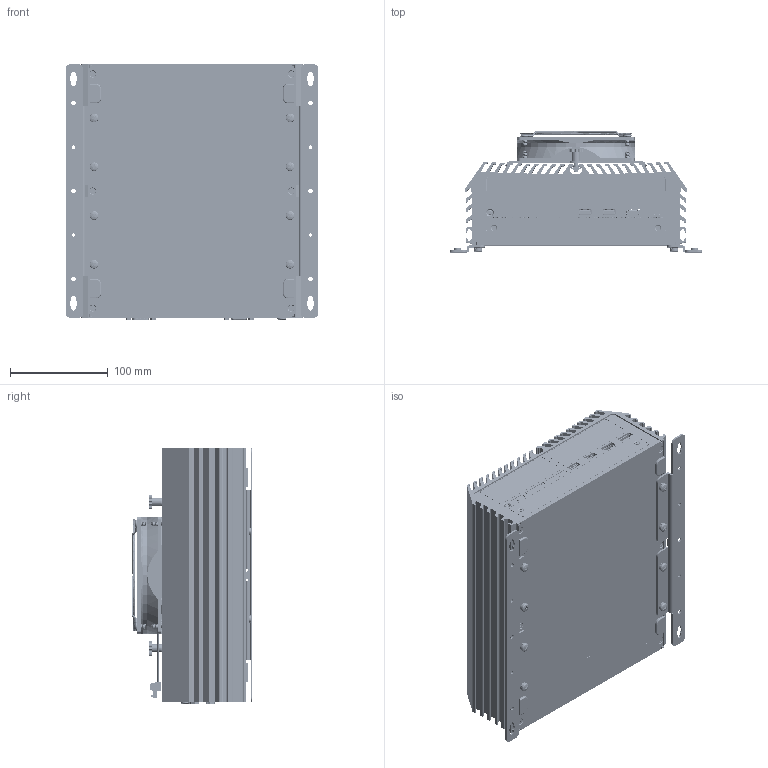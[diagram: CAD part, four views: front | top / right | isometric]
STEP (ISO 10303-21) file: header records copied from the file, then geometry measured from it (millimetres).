
FILE_DESCRIPTION (( 'STEP AP214' ), '1' );
FILE_NAME ('1-DS-1500+Wall Mount+12” 風扇-外觀-20250807.STEP', '2026-07-27T05:17:46', ( '' ), ( '' ), 'SwSTEP 2.0', 'SolidWorks 2014', '' );
FILE_SCHEMA (( 'AUTOMOTIVE_DESIGN' ));
Length unit declared in the file: millimetre
Products named in the file (55): D330H1SL72211DD0; 23-D0351500040_CN1_ECHB350R-04P; 12_ASM_23_ASM; Top Cover(M1-407120006300)-DS-1200-金金-20181015; NUT-M5; USB3.0-2L+RJ45-JFM38U1B-B313-4F(23-D0202300320); 120_X_120_X_25_DC_FAN_ASM_3_ASM_ASM; 1-DS-1500+Wall Mount+12” 風扇-外觀-20250807; MANIFOLD_SOLID_BREP_902_1_1; VOLUMENK_S_VRPER1-4576_2_2; DS-MEC KIT-Universal Bracket(M1-ZZZZ3613001); MANIFOLD_SOLID_BREP_904_1_1; ROTOR_120MM_FAN_2_2; 23-D0242300200_DP1_DISPLAYPORT; M5-SP_3; DS-1300-Front Bezel(M1-407130024100)-20200311; MANIFOLD_SOLID_BREP_906_1_1; 23-D0341500030_DC_IN1_5EHDRM-03P_8; DS-1200-Top Cover asm-金金-20180402; 12-PLATE_9; MANIFOLD_SOLID_BREP_905_1_1; DS-1300-Rear Bezel(M1-407130034100)-20200311; 外接電源B-4腳; DS-1200-Front Bezel Matching Bezel(M1-407120084100); 銅柱-4-4OUNC-4.8_11.8H(M3-COSD6L00000)東莞?輝; DS-1200-Bottom Cover(M1-407120011200)-20180821; MANIFOLD_SOLID_BREP_903_1_1; RITILA_ASM_1_ASM_4_ASM; USB-3.0-SMT-T.H(122-0921NX0504); Screw-丸頭-十字-外齒-M5x8(M3-SCREAB00002); D20H1P1PA1X2A111N2 (3D); Hole Plugs(M4-RUBR0100004)-M06V0; DS-Wall Mount Bracket(M1-ZZZZ3611004); DS-1500-Front Open Bezel(M1-407150084100); Screw-沙拉-120-星型-T10+E型扣-黑-M3x13(M3-1103132270+M3-402004050415); MANIFOLD_SOLID_BREP_899_1_1; Rubber Foot Shore(M4-RUFT0100001); MANIFOLD_SOLID_BREP_900_1_1; DS-1300-Front Bezel-symbol_panel(M0-ZZZZ5C30009)-20200923; USB3.1-2+RJ45-JFM48U1B-BA04(2.5G)(23-D0572300320)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
Assembly tree (94 placements, depth 4):
  1-DS-1500+Wall Mount+12” 風扇-外觀-20250807
    DS-1500-PCBA-ASM-20250203
      DS-1500-Main Board asm-20250203
        23-D0351500040_CN1_ECHB350R-04P
        AUTIO_2IN1
        D20H1P1PA1X2A111N2 (3D)
        23-D0351500040_CN2_MINIDIN_USBX2
        D330H1SL72211DD0
        23-D0242300200_DP1_DISPLAYPORT  x2
        23-D0341500040_FAN2_ECH350R_3P_1LAYER
        23-D0341500030_DC_IN1_5EHDRM-03P_8
        PWR_BTN_TC003
        USB-3.0-SMT-T.H(122-0921NX0504)  x2
        WHDM-19FLBSDR
        USB3.0-2L+RJ45-JFM38U1B-B313-4F(23-D0202300320)
        USB3.1-2+RJ45-JFM48U1B-BA04(2.5G)(23-D0572300320)
    DS-1300-Front Bezel(M1-407130024100)-20200311
    DS-1300-Front Bezel-symbol_panel(M0-ZZZZ5C30009)-20200923
    DS-1500-Front Open Bezel(M1-407150084100)
    DS-1200-Front Bezel Matching Bezel(M1-407120084100)  x2
    DS-1300-Rear Bezel(M1-407130034100)-20200311
    DS-MEC KIT-Universal Bracket(M1-ZZZZ3613001)  x2
    DS-1200-Top Cover asm-金金-20180402
      Top Cover(M1-407120006300)-DS-1200-金金-20181015
    DS-1200-Bottom Cover asm-20200406
      DS-1200-Bottom Cover(M1-407120011200)-20180821
      Rubber Foot Shore(M4-RUFT0100001)  x4
    Screw-耐落-沙拉-120-星型-T10-黑-M3x5(M3-N103052230)  x5
    Screw-耐落-沙拉-90-星型-T10-黑-M3x8(M3-N103082260)  x6
    Screw-沙拉-120-星型-T10+E型扣-黑-M3x13(M3-1103132270+M3-402004050415)  x2
    Screw-丸頭-十字-外齒-M5x8(M3-SCREAB00002)
    Hole Plugs(M4-RUBR0100004)-M06V0  x2
    DS-Wall Mount Bracket(M1-ZZZZ3611004)  x2
    Screw-丸頭-十字-耐落-SW-M5x6(M3-SCREAB00001)  x8
    銅柱-4-4OUNC-4.8_11.8H(M3-COSD6L00000)東莞?輝  x6
    12_ASM_23_ASM
      12-PLATE_9
      M5-SP_3  x2
      120_X_120_X_25_DC_FAN_ASM_3_ASM_ASM
        ROTOR_120MM_FAN_2_2
        VOLUMENK_S_VRPER1-4576_2_2
      NUT-M5  x2
      RUUVI_1_1  x8
      RITILA_ASM_1_ASM_4_ASM
        MANIFOLD_SOLID_BREP_899_1_1
        MANIFOLD_SOLID_BREP_900_1_1
        MANIFOLD_SOLID_BREP_901_1_1
        MANIFOLD_SOLID_BREP_902_1_1
        MANIFOLD_SOLID_BREP_903_1_1
        MANIFOLD_SOLID_BREP_904_1_1
        MANIFOLD_SOLID_BREP_905_1_1
        MANIFOLD_SOLID_BREP_906_1_1
        MANIFOLD_SOLID_BREP_907_1_1
        MANIFOLD_SOLID_BREP_908_1_1
      外接電源B-4腳
Bounding box: 259 x 123.95 x 262.9 mm (x, y, z)
Volume: 1365244.8 mm3; surface area: 801789.9 mm2
Topology: 112 solids, 312 shells, 23733 faces, 65581 edges, 42374 vertices
Faces by surface type: plane 14416, cylinder 6507, bspline 2383, cone 335, sphere 54, torus 38
Entity records: 821578 total; most frequent: CARTESIAN_POINT 228230, ORIENTED_EDGE 106816, DIRECTION 85735, EDGE_CURVE 53616, LINE 36103, VECTOR 36103, VERTEX_POINT 34725, AXIS2_PLACEMENT_3D 24816
